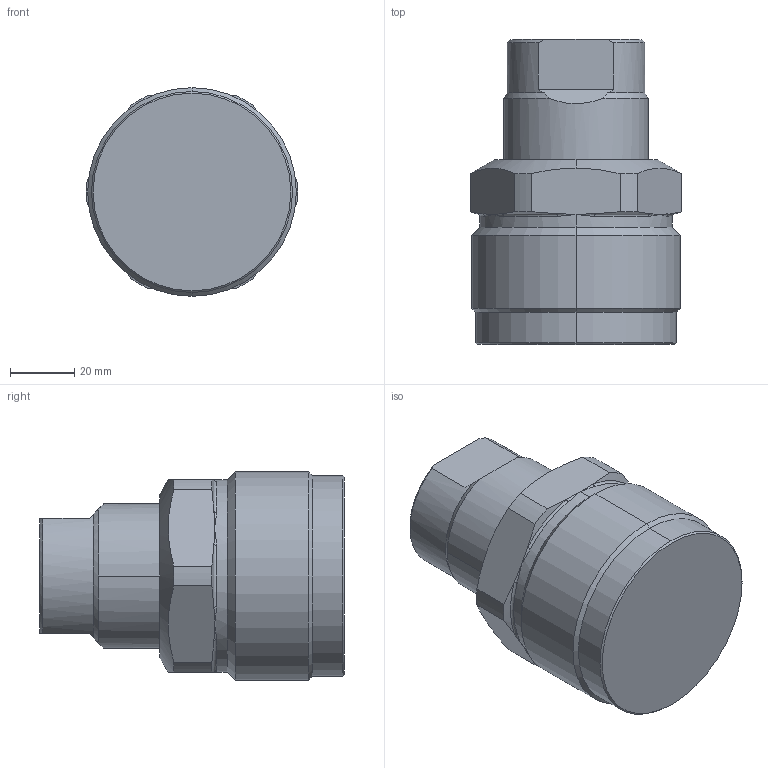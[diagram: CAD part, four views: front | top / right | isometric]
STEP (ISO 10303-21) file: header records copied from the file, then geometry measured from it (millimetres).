
FILE_DESCRIPTION((' '),'2;1');
FILE_NAME( 'TGM40-16.x_t.stp', '2024-08-27T13:43:53', (' '), ('--- Datakit www.datakit.com---'), ' Datakit CrossCadWare V2024.1 Dec 21 2023', 'Mastercam 2025', ' ');
FILE_SCHEMA(('AUTOMOTIVE_DESIGN { 1 0 10303 214 1 1 1 1 }'));
Length unit declared in the file: millimetre
Products named in the file (1): TGM40-16
Bounding box: 65.97 x 95 x 65 mm (x, y, z)
Volume: 204169.1 mm3; surface area: 29330.6 mm2
Topology: 2 solids, 2 shells, 79 faces, 196 edges, 111 vertices
Faces by surface type: cylinder 22, cone 22, plane 17, bspline 12, torus 6
Entity records: 4153 total; most frequent: CARTESIAN_POINT 2393, ORIENTED_EDGE 364, DIRECTION 358, EDGE_CURVE 182, AXIS2_PLACEMENT_3D 156, VERTEX_POINT 111, EDGE_LOOP 83, FACE_OUTER_BOUND 79
